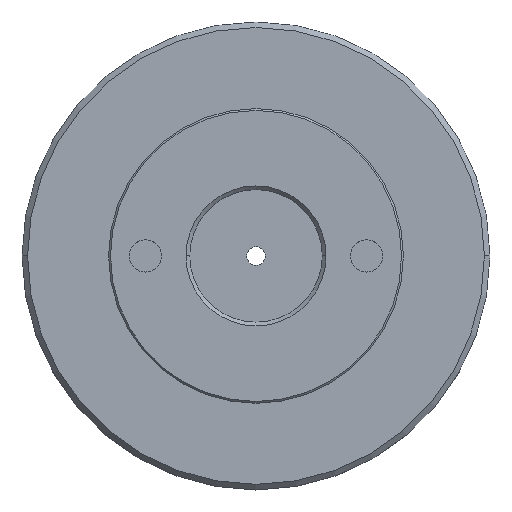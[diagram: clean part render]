
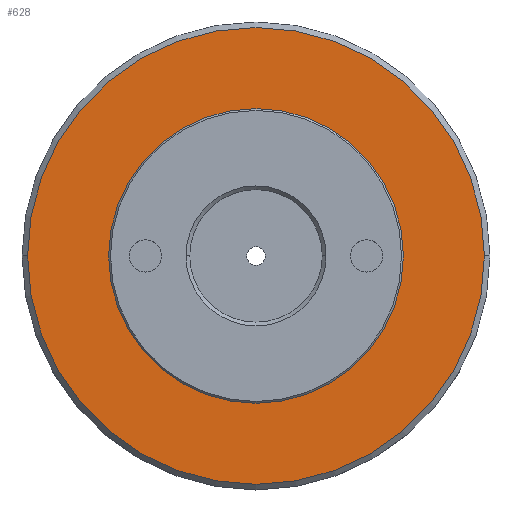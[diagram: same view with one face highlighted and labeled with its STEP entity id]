
A CAD part, top view. The second image highlights one B-rep face of the part: STEP entity #628.
In plain terms, the highlighted planar face has unit normal (0, 0, 1).
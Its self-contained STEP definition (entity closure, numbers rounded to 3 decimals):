
#44 = DIRECTION ( 'NONE',  ( 0., 0., 1. ) ) ;
#78 = EDGE_CURVE ( 'NONE', #581, #357, #521, .T. ) ;
#148 = CARTESIAN_POINT ( 'NONE',  ( -4.858, -0.805, 2.05 ) ) ;
#245 = CIRCLE ( 'NONE', #780, 8. ) ;
#261 = ORIENTED_EDGE ( 'NONE', *, *, #414, .T. ) ;
#280 = CARTESIAN_POINT ( 'NONE',  ( 3.142, -0.805, 2.05 ) ) ;
#301 = EDGE_CURVE ( 'NONE', #1144, #1074, #1013, .T. ) ;
#310 = CARTESIAN_POINT ( 'NONE',  ( -4.858, -0.805, 2.05 ) ) ;
#313 = AXIS2_PLACEMENT_3D ( 'NONE', #559, #1072, #382 ) ;
#357 = VERTEX_POINT ( 'NONE', #280 ) ;
#382 = DIRECTION ( 'NONE',  ( 1., 0., 0. ) ) ;
#414 = EDGE_CURVE ( 'NONE', #357, #581, #245, .T. ) ;
#456 = DIRECTION ( 'NONE',  ( 1., 0., 0. ) ) ;
#511 = CARTESIAN_POINT ( 'NONE',  ( -4.858, -0.805, 2.05 ) ) ;
#521 = CIRCLE ( 'NONE', #1268, 8. ) ;
#559 = CARTESIAN_POINT ( 'NONE',  ( -4.858, -0.805, 2.05 ) ) ;
#581 = VERTEX_POINT ( 'NONE', #1053 ) ;
#628 = ADVANCED_FACE ( 'NONE', ( #1262, #963 ), #1063, .T. ) ;
#642 = EDGE_LOOP ( 'NONE', ( #1084, #1121 ) ) ;
#656 = AXIS2_PLACEMENT_3D ( 'NONE', #511, #916, #1321 ) ;
#665 = ORIENTED_EDGE ( 'NONE', *, *, #78, .T. ) ;
#750 = EDGE_CURVE ( 'NONE', #1074, #1144, #1270, .T. ) ;
#780 = AXIS2_PLACEMENT_3D ( 'NONE', #310, #1197, #1091 ) ;
#813 = CARTESIAN_POINT ( 'NONE',  ( -4.858, -0.805, 2.05 ) ) ;
#847 = AXIS2_PLACEMENT_3D ( 'NONE', #148, #44, #456 ) ;
#916 = DIRECTION ( 'NONE',  ( 0., 0., 1. ) ) ;
#951 = CARTESIAN_POINT ( 'NONE',  ( 7.542, -0.805, 2.05 ) ) ;
#963 = FACE_BOUND ( 'NONE', #1062, .T. ) ;
#1013 = CIRCLE ( 'NONE', #313, 12.4 ) ;
#1053 = CARTESIAN_POINT ( 'NONE',  ( -12.858, -0.805, 2.05 ) ) ;
#1062 = EDGE_LOOP ( 'NONE', ( #261, #665 ) ) ;
#1063 = PLANE ( 'NONE',  #847 ) ;
#1072 = DIRECTION ( 'NONE',  ( 0., 0., 1. ) ) ;
#1074 = VERTEX_POINT ( 'NONE', #1116 ) ;
#1084 = ORIENTED_EDGE ( 'NONE', *, *, #750, .T. ) ;
#1091 = DIRECTION ( 'NONE',  ( 1., 0., 0. ) ) ;
#1116 = CARTESIAN_POINT ( 'NONE',  ( -17.258, -0.805, 2.05 ) ) ;
#1121 = ORIENTED_EDGE ( 'NONE', *, *, #301, .T. ) ;
#1132 = DIRECTION ( 'NONE',  ( 1., 0., 0. ) ) ;
#1144 = VERTEX_POINT ( 'NONE', #951 ) ;
#1197 = DIRECTION ( 'NONE',  ( 0., 0., -1. ) ) ;
#1215 = DIRECTION ( 'NONE',  ( 0., 0., -1. ) ) ;
#1262 = FACE_OUTER_BOUND ( 'NONE', #642, .T. ) ;
#1268 = AXIS2_PLACEMENT_3D ( 'NONE', #813, #1215, #1132 ) ;
#1270 = CIRCLE ( 'NONE', #656, 12.4 ) ;
#1321 = DIRECTION ( 'NONE',  ( 1., 0., 0. ) ) ;
